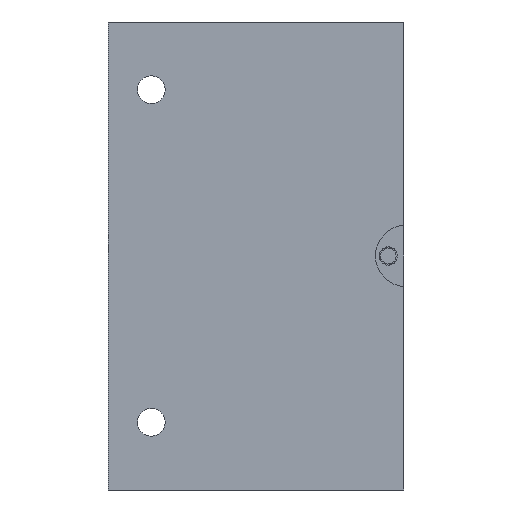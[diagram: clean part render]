
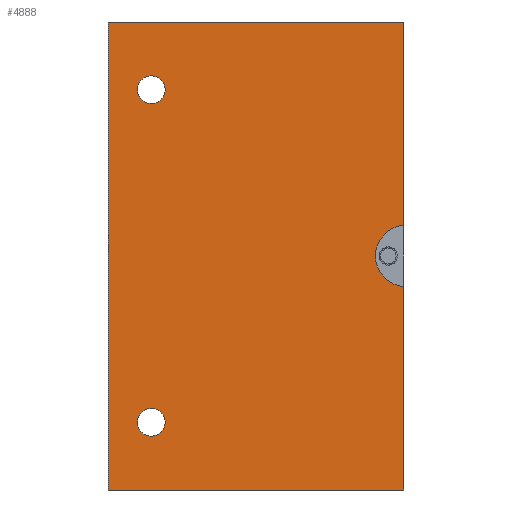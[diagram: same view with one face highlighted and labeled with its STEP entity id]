
A CAD part, front view. The second image highlights one B-rep face of the part: STEP entity #4888.
In plain terms, the highlighted planar face has unit normal (0, -1, 0).
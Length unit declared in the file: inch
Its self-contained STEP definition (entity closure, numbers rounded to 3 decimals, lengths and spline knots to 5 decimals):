
#197=PLANE('',#5247);
#431=LINE('',#8211,#699);
#433=LINE('',#8224,#701);
#439=LINE('',#8528,#707);
#440=LINE('',#8530,#708);
#441=LINE('',#8531,#709);
#699=VECTOR('',#5974,3.);
#701=VECTOR('',#5988,3.);
#707=VECTOR('',#6102,4.75);
#708=VECTOR('',#6105,2.06304);
#709=VECTOR('',#6106,2.06404);
#805=CIRCLE('',#5064,0.3125);
#852=CIRCLE('',#5197,0.14063);
#853=CIRCLE('',#5199,0.14063);
#1110=FACE_BOUND('',#1754,.T.);
#1111=FACE_BOUND('',#1755,.T.);
#1380=FACE_OUTER_BOUND('',#1753,.T.);
#1753=EDGE_LOOP('',(#3889,#3890,#3891,#3892,#3893,#3894));
#1754=EDGE_LOOP('',(#3895));
#1755=EDGE_LOOP('',(#3896));
#2159=VERTEX_POINT('',#6874);
#2160=VERTEX_POINT('',#6876);
#2370=VERTEX_POINT('',#8207);
#2371=VERTEX_POINT('',#8209);
#2375=VERTEX_POINT('',#8221);
#2376=VERTEX_POINT('',#8223);
#2379=VERTEX_POINT('',#8232);
#2380=VERTEX_POINT('',#8235);
#2616=EDGE_CURVE('',#2160,#2159,#805,.T.);
#2916=EDGE_CURVE('',#2370,#2371,#431,.T.);
#2921=EDGE_CURVE('',#2376,#2375,#433,.T.);
#2925=EDGE_CURVE('',#2379,#2379,#852,.T.);
#2926=EDGE_CURVE('',#2380,#2380,#853,.T.);
#2965=EDGE_CURVE('',#2375,#2370,#439,.T.);
#2966=EDGE_CURVE('',#2376,#2159,#440,.T.);
#2967=EDGE_CURVE('',#2160,#2371,#441,.T.);
#3889=ORIENTED_EDGE('',*,*,#2616,.T.);
#3890=ORIENTED_EDGE('',*,*,#2966,.F.);
#3891=ORIENTED_EDGE('',*,*,#2921,.T.);
#3892=ORIENTED_EDGE('',*,*,#2965,.T.);
#3893=ORIENTED_EDGE('',*,*,#2916,.T.);
#3894=ORIENTED_EDGE('',*,*,#2967,.F.);
#3895=ORIENTED_EDGE('',*,*,#2925,.T.);
#3896=ORIENTED_EDGE('',*,*,#2926,.T.);
#4888=ADVANCED_FACE('',(#1380,#1110,#1111),#197,.T.);
#5064=AXIS2_PLACEMENT_3D('',#6877,#5554,#5555);
#5197=AXIS2_PLACEMENT_3D('',#8233,#5998,#5999);
#5199=AXIS2_PLACEMENT_3D('',#8236,#6002,#6003);
#5247=AXIS2_PLACEMENT_3D('',#8529,#6103,#6104);
#5554=DIRECTION('center_axis',(0.,1.,0.));
#5555=DIRECTION('ref_axis',(-0.082,0.,
0.997));
#5974=DIRECTION('',(1.,0.,0.));
#5988=DIRECTION('',(-1.,0.,0.));
#5998=DIRECTION('center_axis',(0.,1.,0.));
#5999=DIRECTION('ref_axis',(1.,0.,0.));
#6002=DIRECTION('center_axis',(0.,1.,0.));
#6003=DIRECTION('ref_axis',(1.,0.,0.));
#6102=DIRECTION('',(0.,0.,-1.));
#6103=DIRECTION('center_axis',(0.,-1.,0.));
#6104=DIRECTION('ref_axis',(0.,0.,-1.));
#6105=DIRECTION('',(0.,0.,-1.));
#6106=DIRECTION('',(0.,0.,-1.));
#6874=CARTESIAN_POINT('',(1.5,-0.75,-2.06304));
#6876=CARTESIAN_POINT('',(1.5,-0.75,-2.68596));
#6877=CARTESIAN_POINT('Origin',(1.5255,-0.75,-2.3745));
#8207=CARTESIAN_POINT('',(-1.5,-0.75,-4.75));
#8209=CARTESIAN_POINT('',(1.5,-0.75,-4.75));
#8211=CARTESIAN_POINT('',(1.5,-0.75,-4.75));
#8221=CARTESIAN_POINT('',(-1.5,-0.75,0.));
#8223=CARTESIAN_POINT('',(1.5,-0.75,0.));
#8224=CARTESIAN_POINT('',(1.5,-0.75,0.));
#8232=CARTESIAN_POINT('',(-1.20313,-0.75,-0.6875));
#8233=CARTESIAN_POINT('Origin',(-1.0625,-0.75,-0.6875));
#8235=CARTESIAN_POINT('',(-1.20313,-0.75,-4.0625));
#8236=CARTESIAN_POINT('Origin',(-1.0625,-0.75,-4.0625));
#8528=CARTESIAN_POINT('',(-1.5,-0.75,0.));
#8529=CARTESIAN_POINT('Origin',(-1.5,-0.75,0.));
#8530=CARTESIAN_POINT('',(1.5,-0.75,0.));
#8531=CARTESIAN_POINT('',(1.5,-0.75,0.));
